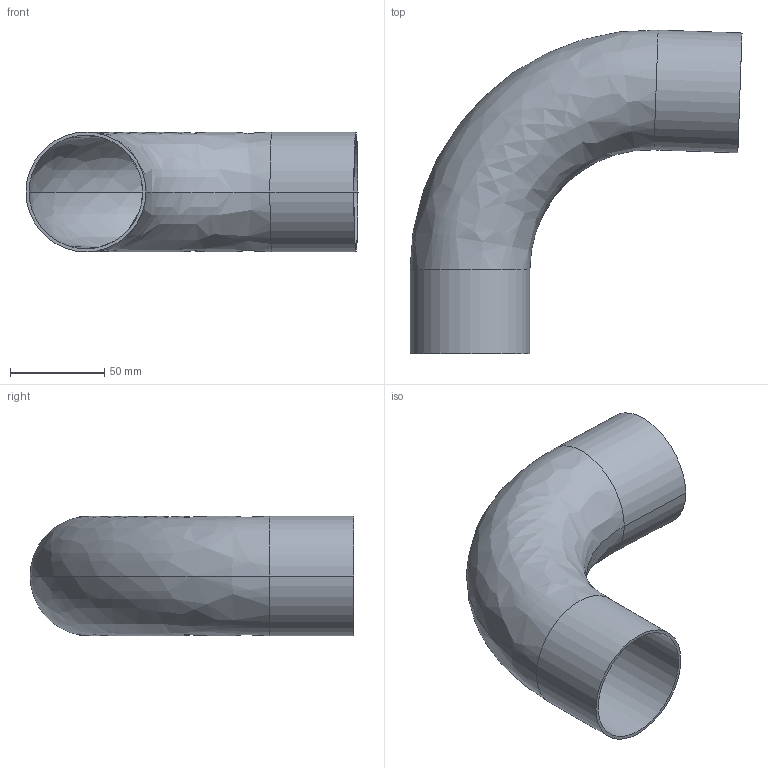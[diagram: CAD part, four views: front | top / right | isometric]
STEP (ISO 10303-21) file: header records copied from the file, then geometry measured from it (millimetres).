
FILE_DESCRIPTION (( 'STEP AP214' ), '1' );
FILE_NAME ('TE2S926L2.5-...STEP', '2016-05-22T11:28:07', ( 'eran' ), ( '' ), 'SwSTEP 2.0', 'SolidWorks 2016', '' );
FILE_SCHEMA (( 'AUTOMOTIVE_DESIGN' ));
Length unit declared in the file: millimetre
Products named in the file (1): TE2S926L2.5-..
Bounding box: 175.86 x 171.46 x 63.5 mm (x, y, z)
Volume: 77566.3 mm3; surface area: 94660.9 mm2
Topology: 1 solids, 1 shells, 14 faces, 28 edges, 16 vertices
Faces by surface type: cylinder 8, bspline 4, plane 2
Entity records: 450 total; most frequent: CARTESIAN_POINT 119, DIRECTION 70, ORIENTED_EDGE 56, AXIS2_PLACEMENT_3D 31, EDGE_CURVE 28, CIRCLE 20, EDGE_LOOP 16, VERTEX_POINT 16
